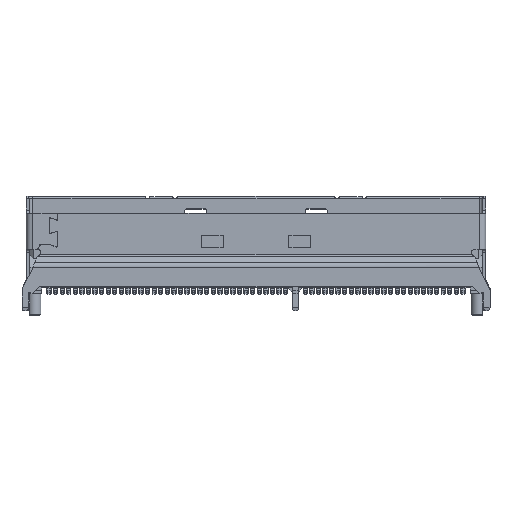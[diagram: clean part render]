
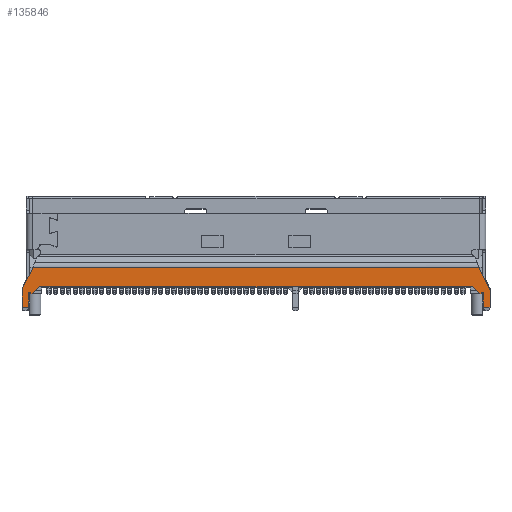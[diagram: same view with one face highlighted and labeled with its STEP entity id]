
A CAD part, top view. The second image highlights one B-rep face of the part: STEP entity #135846.
In plain terms, the highlighted planar face has unit normal (0, 0, 1).
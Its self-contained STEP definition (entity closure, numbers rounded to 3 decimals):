
#4112=DIRECTION('',(0.,-1.,0.));
#4113=VECTOR('',#4112,1.56);
#4114=CARTESIAN_POINT('',(21.375,-0.22,3.35));
#4115=LINE('',#4114,#4113);
#4192=DIRECTION('',(-1.,0.,0.));
#4193=VECTOR('',#4192,0.6);
#4194=CARTESIAN_POINT('',(21.375,-1.78,3.35));
#4195=LINE('',#4194,#4193);
#4204=DIRECTION('',(-0.466,-0.885,0.));
#4205=VECTOR('',#4204,2.228);
#4206=CARTESIAN_POINT('',(-20.336,1.891,3.35));
#4207=LINE('',#4206,#4205);
#4208=DIRECTION('',(-0.442,0.897,0.));
#4209=VECTOR('',#4208,2.353);
#4210=CARTESIAN_POINT('',(21.375,-0.22,3.35));
#4211=LINE('',#4210,#4209);
#4212=CARTESIAN_POINT('',(20.675,-0.53,3.35));
#4213=DIRECTION('',(0.,0.,-1.));
#4214=DIRECTION('',(-1.,0.,0.));
#4215=AXIS2_PLACEMENT_3D('',#4212,#4213,#4214);
#4217=DIRECTION('',(1.,0.,0.));
#4218=VECTOR('',#4217,0.16);
#4219=CARTESIAN_POINT('',(20.415,-0.53,3.35));
#4220=LINE('',#4219,#4218);
#4221=DIRECTION('',(0.695,-0.719,0.));
#4222=VECTOR('',#4221,0.776);
#4223=CARTESIAN_POINT('',(19.876,0.028,3.35));
#4224=LINE('',#4223,#4222);
#4225=CARTESIAN_POINT('',(19.66,-0.18,3.35));
#4226=DIRECTION('',(0.,0.,-1.));
#4227=DIRECTION('',(0.,1.,0.));
#4228=AXIS2_PLACEMENT_3D('',#4225,#4226,#4227);
#4230=DIRECTION('',(1.,0.,0.));
#4231=VECTOR('',#4230,39.32);
#4232=CARTESIAN_POINT('',(-19.66,0.12,3.35));
#4233=LINE('',#4232,#4231);
#4234=CARTESIAN_POINT('',(-19.66,-0.18,3.35));
#4235=DIRECTION('',(0.,0.,-1.));
#4236=DIRECTION('',(-0.719,0.695,0.));
#4237=AXIS2_PLACEMENT_3D('',#4234,#4235,#4236);
#4239=DIRECTION('',(0.695,0.719,0.));
#4240=VECTOR('',#4239,0.776);
#4241=CARTESIAN_POINT('',(-20.415,-0.53,3.35));
#4242=LINE('',#4241,#4240);
#4243=CARTESIAN_POINT('',(-20.675,-0.53,3.35));
#4244=DIRECTION('',(0.,0.,-1.));
#4245=DIRECTION('',(-1.,0.,0.));
#4246=AXIS2_PLACEMENT_3D('',#4243,#4244,#4245);
#4248=DIRECTION('',(0.,-1.,0.));
#4249=VECTOR('',#4248,1.7);
#4250=CARTESIAN_POINT('',(-21.375,-0.08,3.35));
#4251=LINE('',#4250,#4249);
#4309=DIRECTION('',(-1.,0.,0.));
#4310=VECTOR('',#4309,40.673);
#4311=CARTESIAN_POINT('',(20.336,1.891,3.35));
#4312=LINE('',#4311,#4310);
#66759=DIRECTION('',(-1.,0.,0.));
#66760=VECTOR('',#66759,0.6);
#66761=CARTESIAN_POINT('',(-20.775,-1.78,3.35));
#66762=LINE('',#66761,#66760);
#66803=DIRECTION('',(0.,-1.,0.));
#66804=VECTOR('',#66803,1.25);
#66805=CARTESIAN_POINT('',(-20.775,-0.53,3.35));
#66806=LINE('',#66805,#66804);
#66815=DIRECTION('',(1.,0.,0.));
#66816=VECTOR('',#66815,0.16);
#66817=CARTESIAN_POINT('',(-20.575,-0.53,3.35));
#66818=LINE('',#66817,#66816);
#66831=DIRECTION('',(0.,-1.,0.));
#66832=VECTOR('',#66831,1.25);
#66833=CARTESIAN_POINT('',(20.775,-0.53,3.35));
#66834=LINE('',#66833,#66832);
#107523=CARTESIAN_POINT('',(20.415,-0.53,3.35));
#107524=VERTEX_POINT('',#107523);
#107525=CARTESIAN_POINT('',(19.876,0.028,3.35));
#107526=VERTEX_POINT('',#107525);
#107529=CARTESIAN_POINT('',(19.66,0.12,3.35));
#107530=VERTEX_POINT('',#107529);
#107533=CARTESIAN_POINT('',(-19.66,0.12,3.35));
#107534=VERTEX_POINT('',#107533);
#107549=CARTESIAN_POINT('',(-19.876,0.028,3.35));
#107550=VERTEX_POINT('',#107549);
#107555=CARTESIAN_POINT('',(-20.415,-0.53,3.35));
#107556=VERTEX_POINT('',#107555);
#107797=CARTESIAN_POINT('',(20.575,-0.53,3.35));
#107798=VERTEX_POINT('',#107797);
#107799=CARTESIAN_POINT('',(-21.375,-0.08,3.35));
#107800=CARTESIAN_POINT('',(-21.375,-1.78,3.35));
#107801=VERTEX_POINT('',#107799);
#107802=VERTEX_POINT('',#107800);
#107803=CARTESIAN_POINT('',(-20.336,1.891,3.35));
#107804=VERTEX_POINT('',#107803);
#107805=CARTESIAN_POINT('',(20.336,1.891,3.35));
#107806=VERTEX_POINT('',#107805);
#107807=CARTESIAN_POINT('',(21.375,-0.22,3.35));
#107808=VERTEX_POINT('',#107807);
#107809=CARTESIAN_POINT('',(21.375,-1.78,3.35));
#107810=VERTEX_POINT('',#107809);
#107811=CARTESIAN_POINT('',(20.775,-1.78,3.35));
#107812=VERTEX_POINT('',#107811);
#107813=CARTESIAN_POINT('',(20.775,-0.53,3.35));
#107814=VERTEX_POINT('',#107813);
#107815=CARTESIAN_POINT('',(-20.575,-0.53,3.35));
#107816=VERTEX_POINT('',#107815);
#107817=CARTESIAN_POINT('',(-20.775,-0.53,3.35));
#107818=VERTEX_POINT('',#107817);
#107819=CARTESIAN_POINT('',(-20.775,-1.78,3.35));
#107820=VERTEX_POINT('',#107819);
#135811=CARTESIAN_POINT('',(0.,0.056,3.35));
#135812=DIRECTION('',(0.,0.,1.));
#135813=DIRECTION('',(0.,-1.,0.));
#135814=AXIS2_PLACEMENT_3D('',#135811,#135812,#135813);
#135815=PLANE('',#135814);
#135817=ORIENTED_EDGE('',*,*,#135816,.F.);
#135819=ORIENTED_EDGE('',*,*,#135818,.F.);
#135821=ORIENTED_EDGE('',*,*,#135820,.F.);
#135822=ORIENTED_EDGE('',*,*,#135686,.F.);
#135823=ORIENTED_EDGE('',*,*,#135700,.T.);
#135824=ORIENTED_EDGE('',*,*,#135793,.T.);
#135826=ORIENTED_EDGE('',*,*,#135825,.F.);
#135828=ORIENTED_EDGE('',*,*,#135827,.F.);
#135830=ORIENTED_EDGE('',*,*,#135829,.F.);
#135831=ORIENTED_EDGE('',*,*,#131369,.F.);
#135832=ORIENTED_EDGE('',*,*,#131386,.F.);
#135833=ORIENTED_EDGE('',*,*,#131407,.F.);
#135834=ORIENTED_EDGE('',*,*,#131457,.F.);
#135835=ORIENTED_EDGE('',*,*,#131473,.F.);
#135837=ORIENTED_EDGE('',*,*,#135836,.F.);
#135839=ORIENTED_EDGE('',*,*,#135838,.F.);
#135841=ORIENTED_EDGE('',*,*,#135840,.T.);
#135843=ORIENTED_EDGE('',*,*,#135842,.T.);
#135844=EDGE_LOOP('',(#135817,#135819,#135821,#135822,#135823,#135824,#135826,
#135828,#135830,#135831,#135832,#135833,#135834,#135835,#135837,#135839,#135841,
#135843));
#135845=FACE_OUTER_BOUND('',#135844,.F.);
#4216=CIRCLE('',#4215,0.1);
#4229=CIRCLE('',#4228,0.3);
#4238=CIRCLE('',#4237,0.3);
#4247=CIRCLE('',#4246,0.1);
#131369=EDGE_CURVE('',#107526,#107524,#4224,.T.);
#131386=EDGE_CURVE('',#107530,#107526,#4229,.T.);
#131407=EDGE_CURVE('',#107534,#107530,#4233,.T.);
#131457=EDGE_CURVE('',#107550,#107534,#4238,.T.);
#131473=EDGE_CURVE('',#107556,#107550,#4242,.T.);
#135686=EDGE_CURVE('',#107808,#107806,#4211,.T.);
#135700=EDGE_CURVE('',#107808,#107810,#4115,.T.);
#135793=EDGE_CURVE('',#107810,#107812,#4195,.T.);
#135816=EDGE_CURVE('',#107801,#107802,#4251,.T.);
#135818=EDGE_CURVE('',#107804,#107801,#4207,.T.);
#135820=EDGE_CURVE('',#107806,#107804,#4312,.T.);
#135825=EDGE_CURVE('',#107814,#107812,#66834,.T.);
#135827=EDGE_CURVE('',#107798,#107814,#4216,.T.);
#135829=EDGE_CURVE('',#107524,#107798,#4220,.T.);
#135836=EDGE_CURVE('',#107816,#107556,#66818,.T.);
#135838=EDGE_CURVE('',#107818,#107816,#4247,.T.);
#135840=EDGE_CURVE('',#107818,#107820,#66806,.T.);
#135842=EDGE_CURVE('',#107820,#107802,#66762,.T.);
#135846=ADVANCED_FACE('',(#135845),#135815,.T.);
